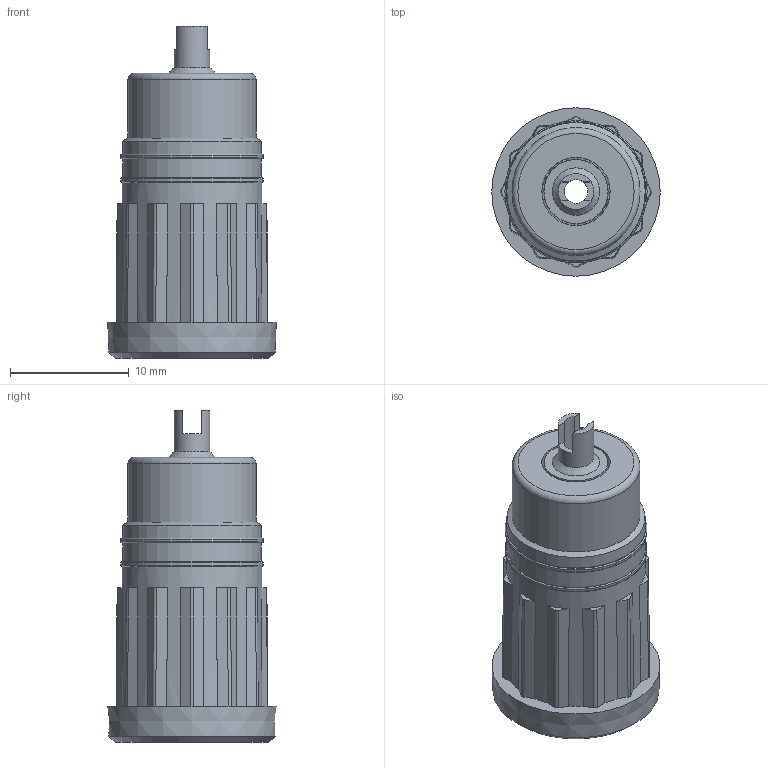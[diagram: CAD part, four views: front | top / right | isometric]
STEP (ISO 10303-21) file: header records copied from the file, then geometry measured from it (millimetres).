
FILE_DESCRIPTION (( 'STEP AP214' ), '1' );
FILE_NAME ('CT2911-6.STEP', '2017-10-11T17:36:18', ( '' ), ( '' ), 'SwSTEP 2.0', 'SolidWorks 2014', '' );
FILE_SCHEMA (( 'AUTOMOTIVE_DESIGN' ));
Length unit declared in the file: millimetre
Products named in the file (3): 440-310_440-310-06; 440-3xx_440-305; CT2911-6
Assembly tree (2 placements, depth 2):
  CT2911-6
    440-310_440-310-06
    440-3xx_440-305
Bounding box: 14.21 x 14.21 x 28 mm (x, y, z)
Volume: 1768.6 mm3; surface area: 3118.3 mm2
Topology: 2 solids, 2 shells, 246 faces, 597 edges, 381 vertices
Faces by surface type: plane 188, cone 31, bspline 12, torus 8, cylinder 7
Full cylindrical faces by diameter (mm): 2 x1, 3 x1, 4.1 x1, 5.4 x1, 10.8 x1, 12 x2
Entity records: 7156 total; most frequent: CARTESIAN_POINT 1471, DIRECTION 1144, ORIENTED_EDGE 1120, EDGE_CURVE 560, AXIS2_PLACEMENT_3D 405, VERTEX_POINT 372, LINE 334, VECTOR 334
